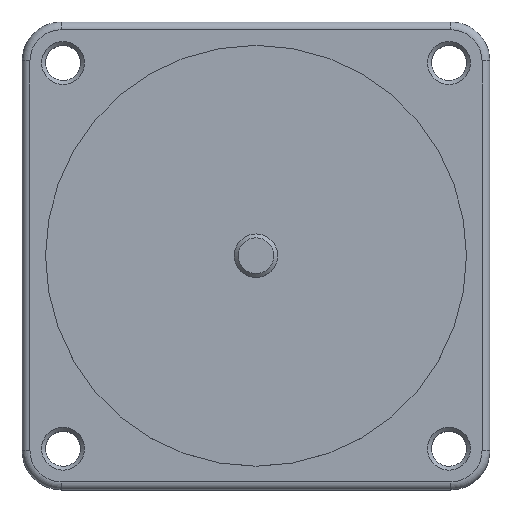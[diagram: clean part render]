
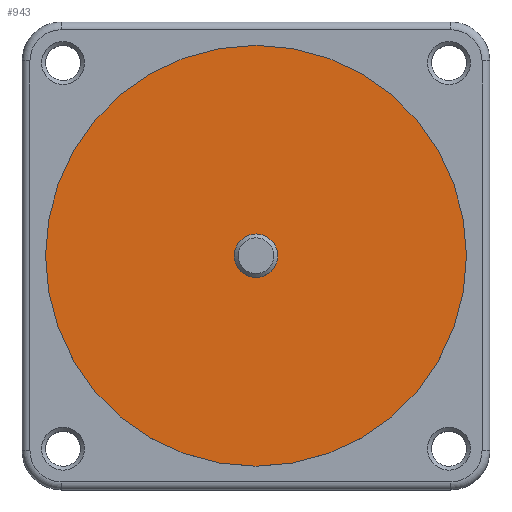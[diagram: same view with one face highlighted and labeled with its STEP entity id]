
A CAD part, top view. The second image highlights one B-rep face of the part: STEP entity #943.
In plain terms, the highlighted planar face has unit normal (0, 0, 1).
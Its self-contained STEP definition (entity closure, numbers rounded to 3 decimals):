
#701=CARTESIAN_POINT('',(2.785,0.,28.));
#702=VERTEX_POINT('',#701);
#703=CARTESIAN_POINT('',(0.0,0.0,28.));
#704=DIRECTION('',(0.0,0.0,-1.0));
#705=DIRECTION('',(-1.0,0.0,0.0));
#706=AXIS2_PLACEMENT_3D('',#703,#704,#705);
#707=CIRCLE('',#706,2.785);
#708=EDGE_CURVE('',#702,#702,#707,.T.);
#917=CARTESIAN_POINT('',(27.0,0.,28.));
#918=VERTEX_POINT('',#917);
#919=CARTESIAN_POINT('',(0.0,0.0,28.));
#920=DIRECTION('',(0.0,0.0,-1.0));
#921=DIRECTION('',(-1.0,0.0,0.0));
#922=AXIS2_PLACEMENT_3D('',#919,#920,#921);
#923=CIRCLE('',#922,27.0);
#924=EDGE_CURVE('',#918,#918,#923,.T.);
#932=CARTESIAN_POINT('',(0.0,0.0,28.));
#933=DIRECTION('',(0.0,0.0,-1.0));
#934=DIRECTION('',(-1.0,0.0,0.0));
#935=AXIS2_PLACEMENT_3D('',#932,#933,#934);
#936=PLANE('',#935);
#937=ORIENTED_EDGE('',*,*,#924,.F.);
#938=EDGE_LOOP('',(#937));
#939=FACE_OUTER_BOUND('',#938,.T.);
#940=ORIENTED_EDGE('',*,*,#708,.T.);
#941=EDGE_LOOP('',(#940));
#942=FACE_BOUND('',#941,.T.);
#943=ADVANCED_FACE('',(#939,#942),#936,.F.);
